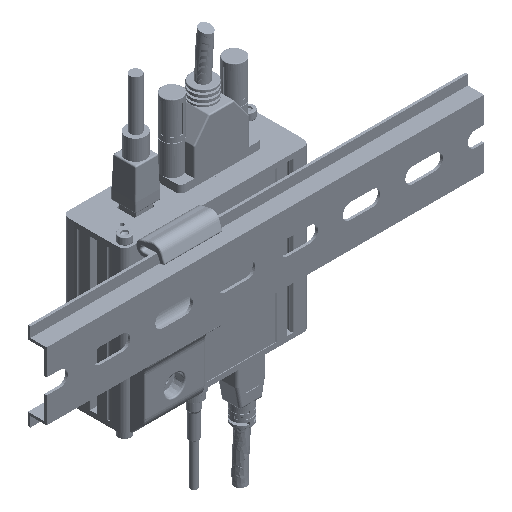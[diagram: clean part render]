
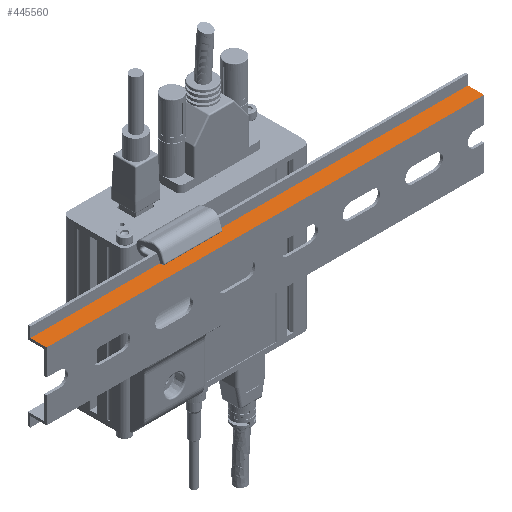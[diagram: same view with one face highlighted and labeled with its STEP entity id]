
A CAD part, isometric view. The second image highlights one B-rep face of the part: STEP entity #445560.
In plain terms, the highlighted planar face has unit normal (0, 0, 1) as drawn and (1, 0, 0) by its records, which use the part's own axes.
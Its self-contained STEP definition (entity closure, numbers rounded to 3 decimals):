
#7683 = ORIENTED_EDGE ( 'NONE', *, *, #315754, .F. ) ;
#10534 = VECTOR ( 'NONE', #322251, 1000. ) ;
#13765 = PLANE ( 'NONE',  #414767 ) ;
#22268 = DIRECTION ( 'NONE',  ( 0., 0., 1. ) ) ;
#30437 = LINE ( 'NONE', #324670, #10534 ) ;
#31295 = ORIENTED_EDGE ( 'NONE', *, *, #77393, .T. ) ;
#36176 = CARTESIAN_POINT ( 'NONE',  ( -4., -7.5, 0. ) ) ;
#62017 = LINE ( 'NONE', #106059, #233577 ) ;
#77393 = EDGE_CURVE ( 'NONE', #131539, #453397, #137426, .T. ) ;
#78118 = CARTESIAN_POINT ( 'NONE',  ( -4., -7.5, 175. ) ) ;
#82475 = CARTESIAN_POINT ( 'NONE',  ( -4., -5.7, 175. ) ) ;
#106059 = CARTESIAN_POINT ( 'NONE',  ( -4., -5.7, 0. ) ) ;
#111240 = CARTESIAN_POINT ( 'NONE',  ( -4., -1., 175. ) ) ;
#131539 = VERTEX_POINT ( 'NONE', #444507 ) ;
#137426 = LINE ( 'NONE', #286965, #360166 ) ;
#179901 = VERTEX_POINT ( 'NONE', #275862 ) ;
#211562 = DIRECTION ( 'NONE',  ( 0., 1., 0. ) ) ;
#219140 = VERTEX_POINT ( 'NONE', #36176 ) ;
#219636 = VECTOR ( 'NONE', #411463, 1000. ) ;
#230117 = LINE ( 'NONE', #78118, #219636 ) ;
#233577 = VECTOR ( 'NONE', #211562, 1000. ) ;
#235432 = ORIENTED_EDGE ( 'NONE', *, *, #365167, .T. ) ;
#259772 = EDGE_CURVE ( 'NONE', #219140, #131539, #62017, .T. ) ;
#275862 = CARTESIAN_POINT ( 'NONE',  ( -4., -7.5, 175. ) ) ;
#280924 = ORIENTED_EDGE ( 'NONE', *, *, #259772, .T. ) ;
#286965 = CARTESIAN_POINT ( 'NONE',  ( -4., -1., 175. ) ) ;
#305977 = EDGE_LOOP ( 'NONE', ( #280924, #31295, #235432, #7683 ) ) ;
#312795 = DIRECTION ( 'NONE',  ( 1., 0., 0. ) ) ;
#315754 = EDGE_CURVE ( 'NONE', #219140, #179901, #230117, .T. ) ;
#322251 = DIRECTION ( 'NONE',  ( 0., -1., 0. ) ) ;
#324670 = CARTESIAN_POINT ( 'NONE',  ( -4., -0.098, 175. ) ) ;
#347162 = FACE_OUTER_BOUND ( 'NONE', #305977, .T. ) ;
#360166 = VECTOR ( 'NONE', #22268, 1000. ) ;
#365167 = EDGE_CURVE ( 'NONE', #453397, #179901, #30437, .T. ) ;
#411463 = DIRECTION ( 'NONE',  ( 0., 0., 1. ) ) ;
#414767 = AXIS2_PLACEMENT_3D ( 'NONE', #82475, #312795, #457447 ) ;
#444507 = CARTESIAN_POINT ( 'NONE',  ( -4., -1., 0. ) ) ;
#445560 = ADVANCED_FACE ( 'NONE', ( #347162 ), #13765, .T. ) ;
#453397 = VERTEX_POINT ( 'NONE', #111240 ) ;
#457447 = DIRECTION ( 'NONE',  ( 0., 0., -1. ) ) ;
